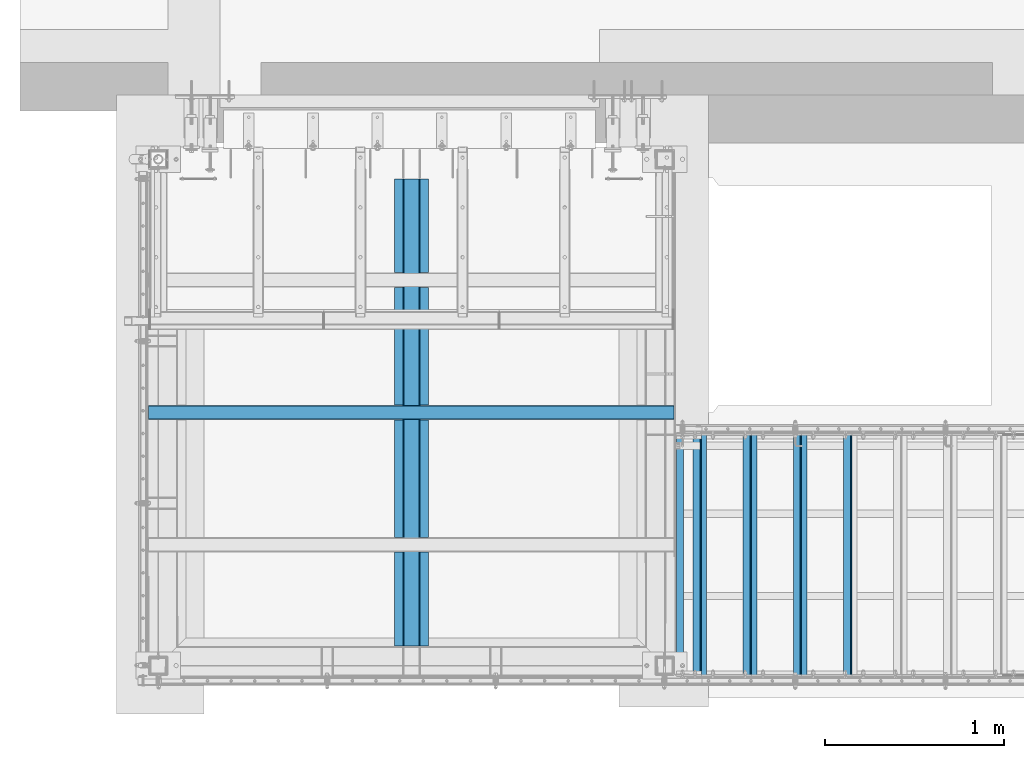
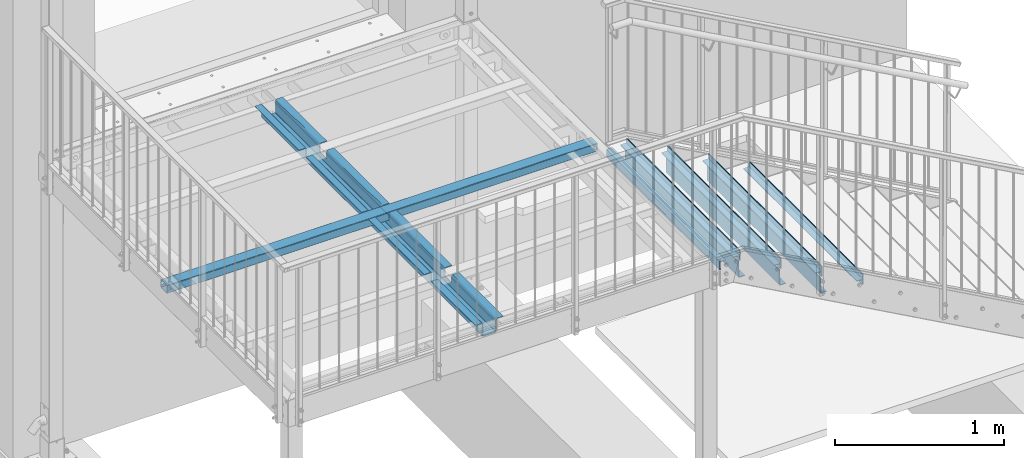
# One storey, part 10 of 116: 14 beams, 7 openings.
"""IFC2X3 building model written with IfcOpenShell, lengths in millimetres."""

from ifc_helpers import new_model, entity, si_unit, converted_unit, point, frame, frame_2d, origin, origin_with_axes, origin_2d, place, context, project, spatial, circle_curve, line_curve, trimmed, segment, composite_curve, rectangle, hollow_rectangle, circle, l_section, outline, extrude, material, element, save


model = new_model("IFC2X3")

# Units and contexts
model_context = context("Model", 3, precision=1e-09, world=origin_with_axes())
ifc_project = project(units=[si_unit("LENGTHUNIT", "METRE", prefix="MILLI"), si_unit("AREAUNIT", "SQUARE_METRE"), si_unit("VOLUMEUNIT", "CUBIC_METRE"), converted_unit("PLANEANGLEUNIT", "DEGREE", entity("IfcPlaneAngleMeasure", 0.01745329), si_unit("PLANEANGLEUNIT", "RADIAN"), dimensions=[0, 0, 0, 0, 0, 0, 0])], contexts=[model_context])

# Site, building, storey
site_placement = place(None, origin_with_axes())
site = spatial("IfcSite", under=ifc_project, at=site_placement, Name="Site", CompositionType="ELEMENT")
building_placement = place(site_placement, origin_with_axes())
building = spatial("IfcBuilding", under=site, at=building_placement, Name="Struktur 1", CompositionType="ELEMENT")
storey_placement = place(building_placement, origin_with_axes())
storey = spatial("IfcBuildingStorey", under=building, at=storey_placement, Name="Default Storey", CompositionType="ELEMENT", Elevation=0.0)

# Beams
ifc_material_1 = material(Name="S235JR")
beam_1_placement = place(None, frame((58241.749134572, 9081.358883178, -62.6), z_axis=(0.0, 1.0, 0.0), x_axis=(1.0, 0.0, 0.0)))
element("IfcBeam", 1, at=beam_1_placement, inside=storey, material=ifc_material_1, Name="-", ObjectType="-", context=model_context, shape_type="SweptSolid", body=[
    extrude(l_section(Depth=60.0, Width=40.0, Thickness=5.0, FilletRadius=6.0, EdgeRadius=3.0, at=frame_2d((10.4, 10.3))), origin(), (0.0, 0.0, 1.0), 1340.0),
])
beam_2_placement = place(None, frame((58369.049134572, 9081.358883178, -45.5), z_axis=(0.0, 1.0, 0.0), x_axis=(-1.0, 0.0, 0.0)))
element("IfcBeam", 2, at=beam_2_placement, inside=storey, material=ifc_material_1, Name="-", ObjectType="-", context=model_context, shape_type="SweptSolid", body=[
    extrude(rectangle(XDim=6.0, YDim=75.0, at=origin_2d()), origin(), (0.0, 0.0, 1.0), 1340.0),
])
beam_3_placement = place(None, frame((58346.049134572, 9081.358883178, -45.5), z_axis=(0.0, 1.0, 0.0), x_axis=(0.0, 0.0, 1.0)))
element("IfcBeam", 3, at=beam_3_placement, inside=storey, material=ifc_material_1, Name="-", ObjectType="-", context=model_context, shape_type="SweptSolid", body=[
    extrude(rectangle(XDim=5.0, YDim=40.0, at=origin_2d()), origin(), (0.0, 0.0, 1.0), 1340.0),
])

# Beam, openings
ifc_material_2 = material(Name="S355JR")
beam_4_placement = place(None, frame((56752.049134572, 9242.858883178, -98.0), z_axis=(0.0, -1.0, 0.0), x_axis=(1.0, 0.0, 0.0)))
beam_4 = element("IfcBeam", 4, at=beam_4_placement, inside=storey, material=ifc_material_2, Name="-", ObjectType="-", context=model_context, shape_type="SweptSolid", body=[
    extrude(outline(composite_curve([segment(trimmed(circle_curve(frame_2d((-40.999999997, -40.999999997), x_axis=(-1.0, 0.0)), 4.000000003), [point((-41.0, -45.0))], [point((-45.0, -41.0))], False, "CARTESIAN"), True, "CONTINUOUS"), segment(trimmed(line_curve((-45.0, -41.0), (0.0, 1.0), 82.0), [point((-45.0, -41.0))], [point((-45.0, 41.0))], True, "CARTESIAN"), True, "CONTINUOUS"), segment(trimmed(circle_curve(frame_2d((-54.000000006, 40.999999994), x_axis=(1.0, 0.0)), 9.000000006), [point((-45.0, 41.0))], [point((-54.0, 50.0))], True, "CARTESIAN"), True, "CONTINUOUS"), segment(trimmed(line_curve((-54.0, 50.0), (-1.0, 0.0), 41.0), [point((-54.0, 50.0))], [point((-95.0, 50.0))], True, "CARTESIAN"), True, "CONTINUOUS"), segment(trimmed(line_curve((-95.0, 50.0), (0.0, -1.0), 5.0), [point((-95.0, 50.0))], [point((-95.0, 45.0))], True, "CARTESIAN"), True, "CONTINUOUS"), segment(trimmed(line_curve((-95.0, 45.0), (1.0, 0.0), 41.0), [point((-95.0, 45.0))], [point((-54.0, 45.0))], True, "CARTESIAN"), True, "CONTINUOUS"), segment(trimmed(circle_curve(frame_2d((-54.000000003, 40.999999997), x_axis=(-1.0, 0.0)), 4.000000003), [point((-54.0, 45.0))], [point((-50.0, 41.0))], False, "CARTESIAN"), True, "CONTINUOUS"), segment(trimmed(line_curve((-50.0, 41.0), (0.0, -1.0), 82.0), [point((-50.0, 41.0))], [point((-50.0, -41.0))], True, "CARTESIAN"), True, "CONTINUOUS"), segment(trimmed(circle_curve(frame_2d((-40.999999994, -40.999999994), x_axis=(1.0, 0.0)), 9.000000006), [point((-50.0, -41.0))], [point((-41.0, -50.0))], True, "CARTESIAN"), True, "CONTINUOUS"), segment(trimmed(line_curve((-41.0, -50.0), (1.0, 0.0), 82.0), [point((-41.0, -50.0))], [point((41.0, -50.0))], True, "CARTESIAN"), True, "CONTINUOUS"), segment(trimmed(circle_curve(frame_2d((40.999999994, -40.999999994), x_axis=(1.0, 0.0)), 9.000000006), [point((41.0, -50.0))], [point((50.0, -41.0))], True, "CARTESIAN"), True, "CONTINUOUS"), segment(trimmed(line_curve((50.0, -41.0), (0.0, 1.0), 82.0), [point((50.0, -41.0))], [point((50.0, 41.0))], True, "CARTESIAN"), True, "CONTINUOUS"), segment(trimmed(circle_curve(frame_2d((54.000000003, 40.999999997), x_axis=(-1.0, 0.0)), 4.000000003), [point((50.0, 41.0))], [point((54.0, 45.0))], False, "CARTESIAN"), True, "CONTINUOUS"), segment(trimmed(line_curve((54.0, 45.0), (1.0, 0.0), 41.0), [point((54.0, 45.0))], [point((95.0, 45.0))], True, "CARTESIAN"), True, "CONTINUOUS"), segment(trimmed(line_curve((95.0, 45.0), (0.0, 1.0), 5.0), [point((95.0, 45.0))], [point((95.0, 50.0))], True, "CARTESIAN"), True, "CONTINUOUS"), segment(trimmed(line_curve((95.0, 50.0), (-1.0, 0.0), 41.0), [point((95.0, 50.0))], [point((54.0, 50.0))], True, "CARTESIAN"), True, "CONTINUOUS"), segment(trimmed(circle_curve(frame_2d((54.000000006, 40.999999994), x_axis=(1.0, 0.0)), 9.000000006), [point((54.0, 50.0))], [point((45.0, 41.0))], True, "CARTESIAN"), True, "CONTINUOUS"), segment(trimmed(line_curve((45.0, 41.0), (0.0, -1.0), 82.0), [point((45.0, 41.0))], [point((45.0, -41.0))], True, "CARTESIAN"), True, "CONTINUOUS"), segment(trimmed(circle_curve(frame_2d((40.999999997, -40.999999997), x_axis=(-1.0, 0.0)), 4.000000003), [point((45.0, -41.0))], [point((41.0, -45.0))], False, "CARTESIAN"), True, "CONTINUOUS"), segment(trimmed(line_curve((41.0, -45.0), (-1.0, 0.0), 82.0), [point((41.0, -45.0))], [point((-41.0, -45.0))], True, "CARTESIAN"), True, "CONTINUOUS")], self_intersect=False)), origin(), (0.0, 0.0, -1.0), 2609.0),
])
opening_1_placement = place(beam_4_placement, frame((195.1, 26.453814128, -1304.5), z_axis=(-1.0, 0.0, 0.0), x_axis=(0.0, 0.0, 1.0)))
element("IfcOpeningElement", 5, at=opening_1_placement, cuts=beam_4, ObjectType="Opening", context=model_context, shape_type="SweptSolid", body=[
    extrude(outline(composite_curve([segment(trimmed(circle_curve(frame_2d((-36.001, -32.454814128), x_axis=(1.0, 0.0)), 5.0), [point((-41.001, -32.454814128))], [point((-36.001, -37.454814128))], True, "CARTESIAN"), True, "CONTINUOUS"), segment(trimmed(line_curve((-36.001, -37.454814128), (1.0, 0.0), 72.002), [point((-36.001, -37.454814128))], [point((36.001, -37.454814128))], True, "CARTESIAN"), True, "CONTINUOUS"), segment(trimmed(circle_curve(frame_2d((36.001, -32.454814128), x_axis=(1.0, 0.0)), 5.0), [point((36.001, -37.454814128))], [point((41.001, -32.454814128))], True, "CARTESIAN"), True, "CONTINUOUS"), segment(trimmed(line_curve((41.001, -32.454814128), (0.0, 1.0), 64.909628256), [point((41.001, -32.454814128))], [point((41.001, 32.454814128))], True, "CARTESIAN"), True, "CONTINUOUS"), segment(trimmed(circle_curve(frame_2d((36.001, 32.454814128), x_axis=(1.0, 0.0)), 5.0), [point((41.001, 32.454814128))], [point((36.001, 37.454814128))], True, "CARTESIAN"), True, "CONTINUOUS"), segment(trimmed(line_curve((36.001, 37.454814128), (-1.0, 0.0), 72.002), [point((36.001, 37.454814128))], [point((-36.001, 37.454814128))], True, "CARTESIAN"), True, "CONTINUOUS"), segment(trimmed(circle_curve(frame_2d((-36.001, 32.454814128), x_axis=(1.0, 0.0)), 5.0), [point((-36.001, 37.454814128))], [point((-41.001, 32.454814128))], True, "CARTESIAN"), True, "CONTINUOUS"), segment(trimmed(line_curve((-41.001, 32.454814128), (0.0, -1.0), 64.909628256), [point((-41.001, 32.454814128))], [point((-41.001, -32.454814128))], True, "CARTESIAN"), True, "CONTINUOUS")], self_intersect=False)), origin(), (0.0, 0.0, 1.0), 390.2),
])
opening_2_placement = place(beam_4_placement, frame((195.1, 26.453814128, -2044.5), z_axis=(-1.0, 0.0, 0.0), x_axis=(0.0, 0.0, 1.0)))
element("IfcOpeningElement", 6, at=opening_2_placement, cuts=beam_4, ObjectType="Opening", context=model_context, shape_type="SweptSolid", body=[
    extrude(outline(composite_curve([segment(trimmed(circle_curve(frame_2d((-36.001, -32.454814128), x_axis=(1.0, 0.0)), 5.0), [point((-41.001, -32.454814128))], [point((-36.001, -37.454814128))], True, "CARTESIAN"), True, "CONTINUOUS"), segment(trimmed(line_curve((-36.001, -37.454814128), (1.0, 0.0), 72.002), [point((-36.001, -37.454814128))], [point((36.001, -37.454814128))], True, "CARTESIAN"), True, "CONTINUOUS"), segment(trimmed(circle_curve(frame_2d((36.001, -32.454814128), x_axis=(1.0, 0.0)), 5.0), [point((36.001, -37.454814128))], [point((41.001, -32.454814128))], True, "CARTESIAN"), True, "CONTINUOUS"), segment(trimmed(line_curve((41.001, -32.454814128), (0.0, 1.0), 64.909628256), [point((41.001, -32.454814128))], [point((41.001, 32.454814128))], True, "CARTESIAN"), True, "CONTINUOUS"), segment(trimmed(circle_curve(frame_2d((36.001, 32.454814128), x_axis=(1.0, 0.0)), 5.0), [point((41.001, 32.454814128))], [point((36.001, 37.454814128))], True, "CARTESIAN"), True, "CONTINUOUS"), segment(trimmed(line_curve((36.001, 37.454814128), (-1.0, 0.0), 72.002), [point((36.001, 37.454814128))], [point((-36.001, 37.454814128))], True, "CARTESIAN"), True, "CONTINUOUS"), segment(trimmed(circle_curve(frame_2d((-36.001, 32.454814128), x_axis=(1.0, 0.0)), 5.0), [point((-36.001, 37.454814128))], [point((-41.001, 32.454814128))], True, "CARTESIAN"), True, "CONTINUOUS"), segment(trimmed(line_curve((-41.001, 32.454814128), (0.0, -1.0), 64.909628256), [point((-41.001, 32.454814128))], [point((-41.001, -32.454814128))], True, "CARTESIAN"), True, "CONTINUOUS")], self_intersect=False)), origin(), (0.0, 0.0, 1.0), 390.2),
])
opening_3_placement = place(beam_4_placement, frame((195.1, 26.453814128, -564.5), z_axis=(-1.0, 0.0, 0.0), x_axis=(0.0, 0.0, 1.0)))
element("IfcOpeningElement", 7, at=opening_3_placement, cuts=beam_4, ObjectType="Opening", context=model_context, shape_type="SweptSolid", body=[
    extrude(outline(composite_curve([segment(trimmed(circle_curve(frame_2d((-36.001, -32.454814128), x_axis=(1.0, 0.0)), 5.0), [point((-41.001, -32.454814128))], [point((-36.001, -37.454814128))], True, "CARTESIAN"), True, "CONTINUOUS"), segment(trimmed(line_curve((-36.001, -37.454814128), (1.0, 0.0), 72.002), [point((-36.001, -37.454814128))], [point((36.001, -37.454814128))], True, "CARTESIAN"), True, "CONTINUOUS"), segment(trimmed(circle_curve(frame_2d((36.001, -32.454814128), x_axis=(1.0, 0.0)), 5.0), [point((36.001, -37.454814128))], [point((41.001, -32.454814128))], True, "CARTESIAN"), True, "CONTINUOUS"), segment(trimmed(line_curve((41.001, -32.454814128), (0.0, 1.0), 64.909628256), [point((41.001, -32.454814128))], [point((41.001, 32.454814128))], True, "CARTESIAN"), True, "CONTINUOUS"), segment(trimmed(circle_curve(frame_2d((36.001, 32.454814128), x_axis=(1.0, 0.0)), 5.0), [point((41.001, 32.454814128))], [point((36.001, 37.454814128))], True, "CARTESIAN"), True, "CONTINUOUS"), segment(trimmed(line_curve((36.001, 37.454814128), (-1.0, 0.0), 72.002), [point((36.001, 37.454814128))], [point((-36.001, 37.454814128))], True, "CARTESIAN"), True, "CONTINUOUS"), segment(trimmed(circle_curve(frame_2d((-36.001, 32.454814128), x_axis=(1.0, 0.0)), 5.0), [point((-36.001, 37.454814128))], [point((-41.001, 32.454814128))], True, "CARTESIAN"), True, "CONTINUOUS"), segment(trimmed(line_curve((-41.001, 32.454814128), (0.0, -1.0), 64.909628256), [point((-41.001, 32.454814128))], [point((-41.001, -32.454814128))], True, "CARTESIAN"), True, "CONTINUOUS")], self_intersect=False)), origin(), (0.0, 0.0, 1.0), 390.2),
])

beam_5_placement = place(None, frame((55283.549134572, 10547.358883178, -78.0), z_axis=(-1.0, 0.0, 0.0), x_axis=(0.0, 0.0, -1.0)))
beam_5 = element("IfcBeam", 8, at=beam_5_placement, inside=storey, material=ifc_material_1, Name="-", ObjectType="-", context=model_context, shape_type="SweptSolid", body=[
    extrude(hollow_rectangle(XDim=60.0, YDim=80.0, WallThickness=4.0, InnerFilletRadius=4.0, OuterFilletRadius=8.0, at=origin_2d()), origin(), (0.0, 0.0, -1.0), 2937.0),
])
opening_4_placement = place(beam_5_placement, frame((0.0, 35.5, 0.0), z_axis=(0.0, 1.0, 0.0), x_axis=(0.0, 0.0, -1.0)))
element("IfcOpeningElement", 9, at=opening_4_placement, cuts=beam_5, ObjectType="Opening", context=model_context, shape_type="SweptSolid", body=[
    extrude(circle(Radius=10.001, at=frame_2d((15.0, 0.0), x_axis=(1.0, 0.0))), origin(), (0.0, 0.0, 1.0), 5.0),
])
opening_5_placement = place(beam_5_placement, frame((0.0, -35.5, -4.999), z_axis=(0.0, 1.0, 0.0), x_axis=(-1.0, 0.0, 0.0)))
element("IfcOpeningElement", 10, at=opening_5_placement, cuts=beam_5, ObjectType="Opening", context=model_context, shape_type="SweptSolid", body=[
    extrude(circle(Radius=10.001, at=frame_2d((0.0, -10.001), x_axis=(1.0, 0.0))), origin(), (0.0, 0.0, -1.0), 5.0),
])
opening_6_placement = place(beam_5_placement, frame((0.0, -35.5, -2937.0), z_axis=(0.0, -1.0, 0.0), x_axis=(0.0, 0.0, 1.0)))
element("IfcOpeningElement", 11, at=opening_6_placement, cuts=beam_5, ObjectType="Opening", context=model_context, shape_type="SweptSolid", body=[
    extrude(circle(Radius=10.001, at=frame_2d((15.0, 0.0), x_axis=(1.0, 0.0))), origin(), (0.0, 0.0, 1.0), 5.0),
])
opening_7_placement = place(beam_5_placement, frame((0.0, 35.5, -2932.001), z_axis=(0.0, -1.0, 0.0), x_axis=(1.0, 0.0, 0.0)))
element("IfcOpeningElement", 12, at=opening_7_placement, cuts=beam_5, ObjectType="Opening", context=model_context, shape_type="SweptSolid", body=[
    extrude(circle(Radius=10.001, at=frame_2d((0.0, 10.001), x_axis=(1.0, 0.0))), origin(), (0.0, 0.0, -1.0), 5.0),
])

# Beams
beam_6_placement = place(None, frame((59186.049134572, 9081.358883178, -510.5), z_axis=(0.0, 1.0, 0.0), x_axis=(0.0, 0.0, 1.0)))
element("IfcBeam", 13, at=beam_6_placement, inside=storey, material=ifc_material_1, Name="-", ObjectType="-", context=model_context, shape_type="SweptSolid", body=[
    extrude(rectangle(XDim=5.0, YDim=40.0, at=origin_2d()), origin(), (0.0, 0.0, 1.0), 1340.0),
])
beam_7_placement = place(None, frame((59209.049134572, 9081.358883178, -510.5), z_axis=(0.0, 1.0, 0.0), x_axis=(-1.0, 0.0, 0.0)))
element("IfcBeam", 14, at=beam_7_placement, inside=storey, material=ifc_material_1, Name="-", ObjectType="-", context=model_context, shape_type="SweptSolid", body=[
    extrude(rectangle(XDim=6.0, YDim=75.0, at=origin_2d()), origin(), (0.0, 0.0, 1.0), 1340.0),
])
beam_8_placement = place(None, frame((58917.049134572, 9081.358883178, -513.0), z_axis=(0.0, -1.0, 0.0), x_axis=(1.0, 0.0, 0.0)))
element("IfcBeam", 15, at=beam_8_placement, inside=storey, material=ifc_material_1, Name="-", ObjectType="-", context=model_context, shape_type="SweptSolid", body=[
    extrude(outline(composite_curve([segment(trimmed(line_curve((0.0, 115.0), (0.0, -1.0), 105.0), [point((0.0, 115.0))], [point((0.0, 10.0))], True, "CARTESIAN"), True, "CONTINUOUS"), segment(trimmed(circle_curve(frame_2d((10.0, 10.0), x_axis=(1.0, 0.0)), 10.0), [point((0.0, 10.0))], [point((10.0, 0.0))], True, "CARTESIAN"), True, "CONTINUOUS"), segment(trimmed(line_curve((10.0, 0.0), (1.0, 0.0), 35.0), [point((10.0, 0.0))], [point((45.0, 0.0))], True, "CARTESIAN"), True, "CONTINUOUS"), segment(trimmed(line_curve((45.0, 0.0), (0.0, 1.0), 5.0), [point((45.0, 0.0))], [point((45.0, 5.0))], True, "CARTESIAN"), True, "CONTINUOUS"), segment(trimmed(line_curve((45.0, 5.0), (-1.0, 0.0), 35.0), [point((45.0, 5.0))], [point((10.0, 5.0))], True, "CARTESIAN"), True, "CONTINUOUS"), segment(trimmed(circle_curve(frame_2d((10.0, 10.0), x_axis=(-1.0, 0.0)), 5.0), [point((10.0, 5.0))], [point((5.0, 10.0))], False, "CARTESIAN"), True, "CONTINUOUS"), segment(trimmed(line_curve((5.0, 10.0), (0.0, 1.0), 105.0), [point((5.0, 10.0))], [point((5.0, 115.0))], True, "CARTESIAN"), True, "CONTINUOUS"), segment(trimmed(line_curve((5.0, 115.0), (-1.0, 0.0), 5.0), [point((5.0, 115.0))], [point((0.0, 115.0))], True, "CARTESIAN"), True, "CONTINUOUS")], self_intersect=False)), origin(), (0.0, 0.0, -1.0), 1340.0),
])
beam_9_placement = place(None, frame((58906.049134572, 9081.358883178, -355.5), z_axis=(0.0, 1.0, 0.0), x_axis=(0.0, 0.0, 1.0)))
element("IfcBeam", 16, at=beam_9_placement, inside=storey, material=ifc_material_1, Name="-", ObjectType="-", context=model_context, shape_type="SweptSolid", body=[
    extrude(rectangle(XDim=5.0, YDim=40.0, at=origin_2d()), origin(), (0.0, 0.0, 1.0), 1340.0),
])
beam_10_placement = place(None, frame((58929.049134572, 9081.358883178, -355.5), z_axis=(0.0, 1.0, 0.0), x_axis=(-1.0, 0.0, 0.0)))
element("IfcBeam", 17, at=beam_10_placement, inside=storey, material=ifc_material_1, Name="-", ObjectType="-", context=model_context, shape_type="SweptSolid", body=[
    extrude(rectangle(XDim=6.0, YDim=75.0, at=origin_2d()), origin(), (0.0, 0.0, 1.0), 1340.0),
])
beam_11_placement = place(None, frame((58637.049134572, 9081.358883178, -358.0), z_axis=(0.0, -1.0, 0.0), x_axis=(1.0, 0.0, 0.0)))
element("IfcBeam", 18, at=beam_11_placement, inside=storey, material=ifc_material_1, Name="-", ObjectType="-", context=model_context, shape_type="SweptSolid", body=[
    extrude(outline(composite_curve([segment(trimmed(line_curve((0.0, 115.0), (0.0, -1.0), 105.0), [point((0.0, 115.0))], [point((0.0, 10.0))], True, "CARTESIAN"), True, "CONTINUOUS"), segment(trimmed(circle_curve(frame_2d((10.0, 10.0), x_axis=(1.0, 0.0)), 10.0), [point((0.0, 10.0))], [point((10.0, 0.0))], True, "CARTESIAN"), True, "CONTINUOUS"), segment(trimmed(line_curve((10.0, 0.0), (1.0, 0.0), 35.0), [point((10.0, 0.0))], [point((45.0, 0.0))], True, "CARTESIAN"), True, "CONTINUOUS"), segment(trimmed(line_curve((45.0, 0.0), (0.0, 1.0), 5.0), [point((45.0, 0.0))], [point((45.0, 5.0))], True, "CARTESIAN"), True, "CONTINUOUS"), segment(trimmed(line_curve((45.0, 5.0), (-1.0, 0.0), 35.0), [point((45.0, 5.0))], [point((10.0, 5.0))], True, "CARTESIAN"), True, "CONTINUOUS"), segment(trimmed(circle_curve(frame_2d((10.0, 10.0), x_axis=(-1.0, 0.0)), 5.0), [point((10.0, 5.0))], [point((5.0, 10.0))], False, "CARTESIAN"), True, "CONTINUOUS"), segment(trimmed(line_curve((5.0, 10.0), (0.0, 1.0), 105.0), [point((5.0, 10.0))], [point((5.0, 115.0))], True, "CARTESIAN"), True, "CONTINUOUS"), segment(trimmed(line_curve((5.0, 115.0), (-1.0, 0.0), 5.0), [point((5.0, 115.0))], [point((0.0, 115.0))], True, "CARTESIAN"), True, "CONTINUOUS")], self_intersect=False)), origin(), (0.0, 0.0, -1.0), 1340.0),
])
beam_12_placement = place(None, frame((58626.049134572, 9081.358883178, -200.5), z_axis=(0.0, 1.0, 0.0), x_axis=(0.0, 0.0, 1.0)))
element("IfcBeam", 19, at=beam_12_placement, inside=storey, material=ifc_material_1, Name="-", ObjectType="-", context=model_context, shape_type="SweptSolid", body=[
    extrude(rectangle(XDim=5.0, YDim=40.0, at=origin_2d()), origin(), (0.0, 0.0, 1.0), 1340.0),
])
beam_13_placement = place(None, frame((58649.049134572, 9081.358883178, -200.5), z_axis=(0.0, 1.0, 0.0), x_axis=(-1.0, 0.0, 0.0)))
element("IfcBeam", 20, at=beam_13_placement, inside=storey, material=ifc_material_1, Name="-", ObjectType="-", context=model_context, shape_type="SweptSolid", body=[
    extrude(rectangle(XDim=6.0, YDim=75.0, at=origin_2d()), origin(), (0.0, 0.0, 1.0), 1340.0),
])
beam_14_placement = place(None, frame((58357.049134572, 9081.358883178, -203.0), z_axis=(0.0, -1.0, 0.0), x_axis=(1.0, 0.0, 0.0)))
element("IfcBeam", 21, at=beam_14_placement, inside=storey, material=ifc_material_1, Name="-", ObjectType="-", context=model_context, shape_type="SweptSolid", body=[
    extrude(outline(composite_curve([segment(trimmed(line_curve((0.0, 115.0), (0.0, -1.0), 105.0), [point((0.0, 115.0))], [point((0.0, 10.0))], True, "CARTESIAN"), True, "CONTINUOUS"), segment(trimmed(circle_curve(frame_2d((10.0, 10.0), x_axis=(1.0, 0.0)), 10.0), [point((0.0, 10.0))], [point((10.0, 0.0))], True, "CARTESIAN"), True, "CONTINUOUS"), segment(trimmed(line_curve((10.0, 0.0), (1.0, 0.0), 35.0), [point((10.0, 0.0))], [point((45.0, 0.0))], True, "CARTESIAN"), True, "CONTINUOUS"), segment(trimmed(line_curve((45.0, 0.0), (0.0, 1.0), 5.0), [point((45.0, 0.0))], [point((45.0, 5.0))], True, "CARTESIAN"), True, "CONTINUOUS"), segment(trimmed(line_curve((45.0, 5.0), (-1.0, 0.0), 35.0), [point((45.0, 5.0))], [point((10.0, 5.0))], True, "CARTESIAN"), True, "CONTINUOUS"), segment(trimmed(circle_curve(frame_2d((10.0, 10.0), x_axis=(-1.0, 0.0)), 5.0), [point((10.0, 5.0))], [point((5.0, 10.0))], False, "CARTESIAN"), True, "CONTINUOUS"), segment(trimmed(line_curve((5.0, 10.0), (0.0, 1.0), 105.0), [point((5.0, 10.0))], [point((5.0, 115.0))], True, "CARTESIAN"), True, "CONTINUOUS"), segment(trimmed(line_curve((5.0, 115.0), (-1.0, 0.0), 5.0), [point((5.0, 115.0))], [point((0.0, 115.0))], True, "CARTESIAN"), True, "CONTINUOUS")], self_intersect=False)), origin(), (0.0, 0.0, -1.0), 1340.0),
])

save(model, "model.ifc")
